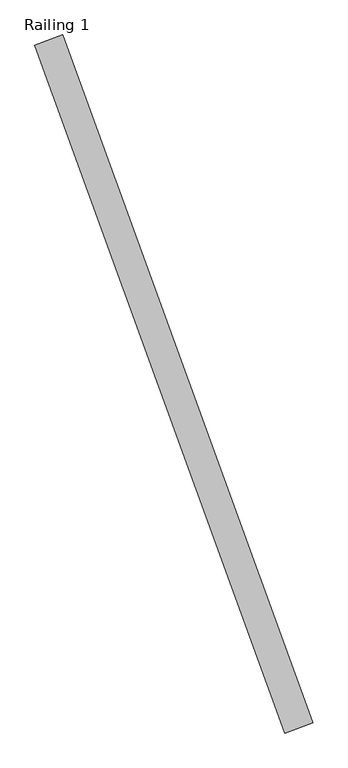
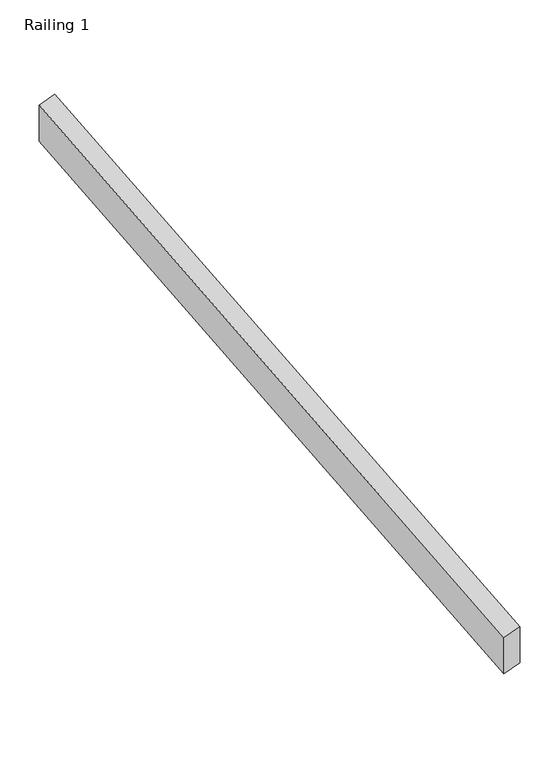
"""IFC4 building model written with IfcOpenShell, lengths in millimetres: railing geometry, Railing 1."""

from ifc_helpers import new_model, si_unit, frame, origin, place, context, project, spatial, polyline, outline, extrude, source, transform, mapped, element, save


def railing_1_5b98b4d4(model_context):
    return source(origin(), model_context, "Body", "SweptSolid", [
        extrude(outline(polyline([(-47.244, -76.2), (0.0, 0.0), (1470.756608, 0.0), (1423.512608, -76.2), (-47.244, -76.2)])), frame((17906.4938601, 24950.4934603, 2555.0), z_axis=(0.9396923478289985, 0.3420208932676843, 0.0), x_axis=(-0.29068447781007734, 0.7986470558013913, 0.5269396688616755)), (0.0, 0.0, 1.0), 50.8),
    ])


if __name__ == "__main__":
    model = new_model("IFC4")
    model_context = context("Model", 3, world=origin())
    ifc_project = project(units=[si_unit("LENGTHUNIT", "METRE", prefix="MILLI")], contexts=[model_context])
    site = spatial("IfcSite", under=ifc_project)
    building = spatial("IfcBuilding", under=site)
    placement = place(None, origin())
    railing_1_shape = railing_1_5b98b4d4(model_context)
    element("IfcRailing", 1, ObjectType="Railing 1", at=placement, inside=building, context=model_context, shape_type="MappedRepresentation", body=[
        mapped(railing_1_shape, transform((0.0, 0.0, 0.0), x_axis=(1.0, 0.0, 0.0), y_axis=(0.0, 1.0, 0.0), z_axis=(0.0, 0.0, 1.0))),
    ])
    save(model, "model.ifc")
